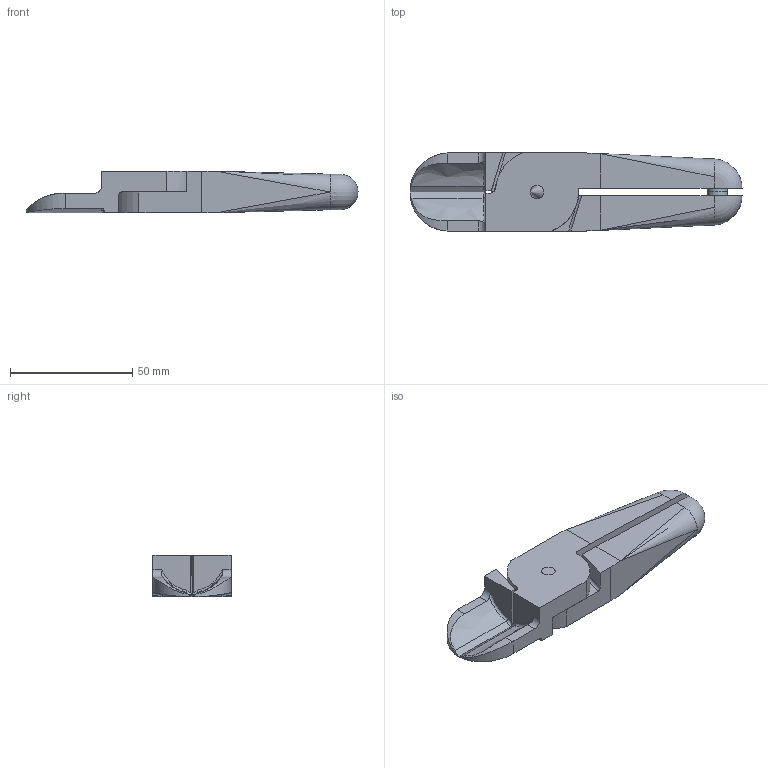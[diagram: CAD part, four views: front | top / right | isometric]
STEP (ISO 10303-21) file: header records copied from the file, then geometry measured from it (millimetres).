
FILE_DESCRIPTION (( 'STEP AP214' ), '1' );
FILE_NAME ('N30AJ.STEP', '2019-11-29T04:01:08', ( '微软用户' ), ( '微软中国' ), 'SwSTEP 2.0', 'SolidWorks 2016', '' );
FILE_SCHEMA (( 'AUTOMOTIVE_DESIGN' ));
Length unit declared in the file: millimetre
Products named in the file (1): N30AJ
Bounding box: 136 x 32 x 17 mm (x, y, z)
Surface area: 16582.8 mm2 (no closed solid volume)
Topology: 0 solids, 5 shells, 80 faces, 245 edges, 160 vertices
Faces by surface type: plane 40, cylinder 24, bspline 16
Full cylindrical faces by diameter (mm): 5.5 x1
Entity records: 7216 total; most frequent: CARTESIAN_POINT 4850, ORIENTED_EDGE 436, DIRECTION 322, EDGE_CURVE 234, VERTEX_POINT 159, VECTOR 126, LINE 126, AXIS2_PLACEMENT_3D 98
